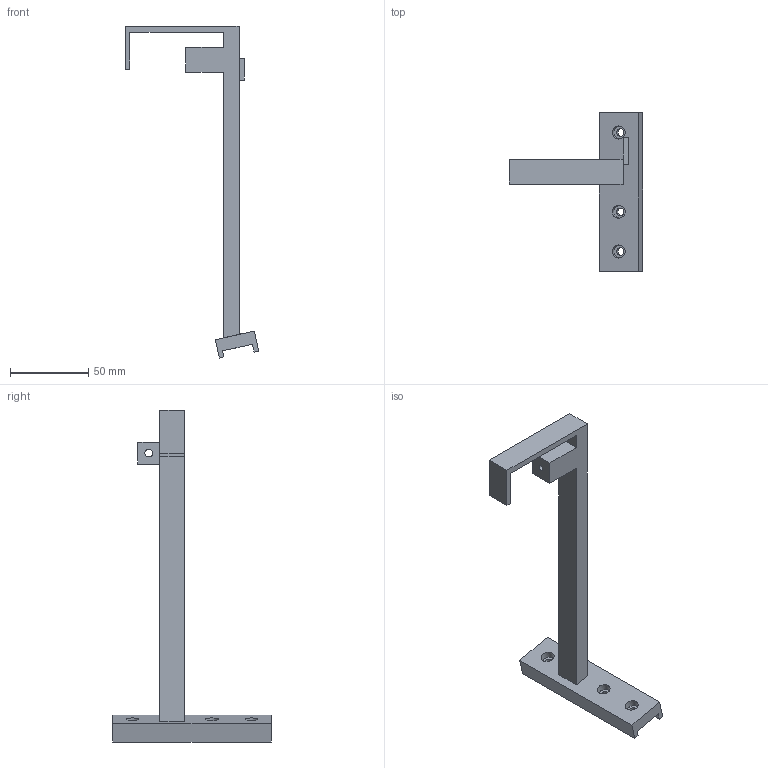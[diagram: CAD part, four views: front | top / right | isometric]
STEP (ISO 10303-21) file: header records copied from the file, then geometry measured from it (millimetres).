
FILE_DESCRIPTION(('Open CASCADE Model'),'2;1');
FILE_NAME('Open CASCADE Shape Model','2026-10-15T19:33:11',('Author'),( 'Open CASCADE'),'Open CASCADE STEP processor 7.9','Open CASCADE 7.9' ,'Unknown');
FILE_SCHEMA(('AUTOMOTIVE_DESIGN { 1 0 10303 214 1 1 1 1 }'));
Length unit declared in the file: millimetre
Products named in the file (1): Open CASCADE STEP translator 7.9 2
Bounding box: 85.52 x 101.6 x 212.56 mm (x, y, z)
Volume: 66285.8 mm3; surface area: 25827.9 mm2
Topology: 1 solids, 1 shells, 40 faces, 102 edges, 68 vertices
Faces by surface type: plane 32, cylinder 8
Full cylindrical faces by diameter (mm): 3.4 x1, 4.8 x3, 4.9 x1, 8.4 x3
Entity records: 2575 total; most frequent: CARTESIAN_POINT 515, DIRECTION 369, LINE 252, VECTOR 252, ORIENTED_EDGE 204, PCURVE 204, DEFINITIONAL_REPRESENTATION 204, EDGE_CURVE 102
